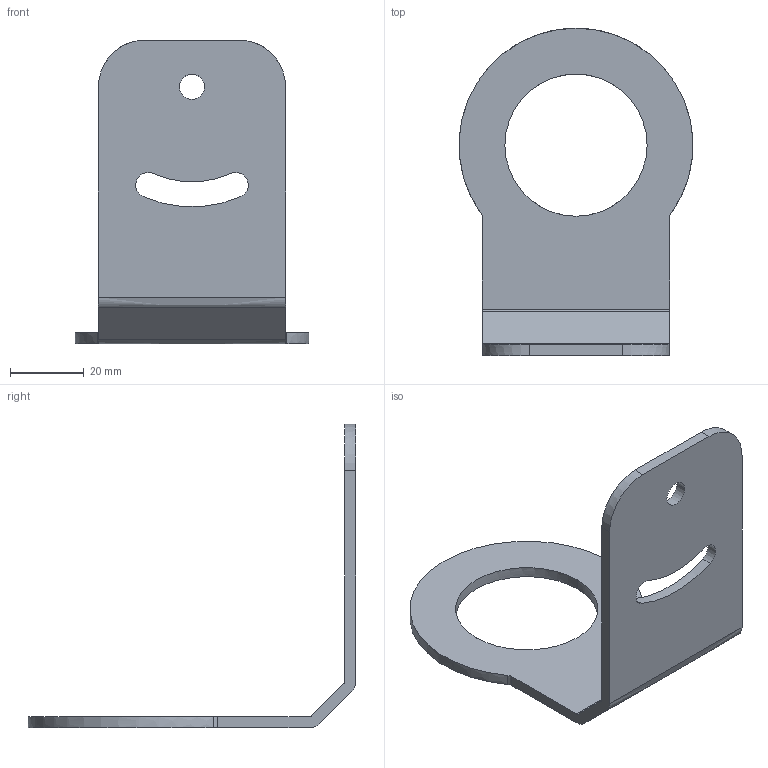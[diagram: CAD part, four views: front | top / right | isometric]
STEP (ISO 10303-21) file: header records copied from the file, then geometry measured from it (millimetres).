
FILE_DESCRIPTION((''),'2;1');
FILE_NAME('TX','2009-04-22T',('SRambau'),('RAYTEK'),'PRO/ENGINEER BY PARAMETRIC TECHNOLOGY CORPORATION, 2006460','PRO/ENGINEER BY PARAMETRIC TECHNOLOGY CORPORATION, 2006460','');
FILE_SCHEMA(('CONFIG_CONTROL_DESIGN'));
Length unit declared in the file: millimetre
Products named in the file (1): TX
Bounding box: 63.42 x 88.95 x 82.5 mm (x, y, z)
Surface area: 15650.7 mm2 (no closed solid volume)
Topology: 0 solids, 0 shells, 26 faces, 144 edges, 144 vertices
Faces by surface type: bspline 26
Entity records: 2831 total; most frequent: CARTESIAN_POINT 1474, DIRECTION 216, TRIMMED_CURVE 182, VECTOR 148, LINE 148, DEFINITIONAL_REPRESENTATION 144, PCURVE 144, COMPOSITE_CURVE_SEGMENT 144
